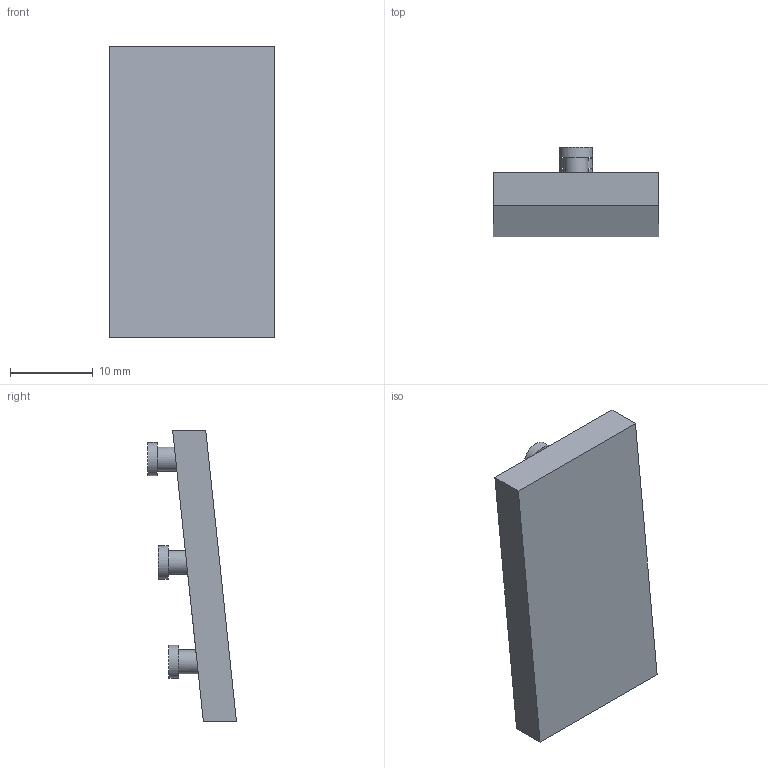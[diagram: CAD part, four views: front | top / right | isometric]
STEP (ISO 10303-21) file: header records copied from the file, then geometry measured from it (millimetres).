
FILE_DESCRIPTION(('Open CASCADE Model'),'2;1');
FILE_NAME('Open CASCADE Shape Model','2026-10-17T22:10:43',('Author'),( 'Open CASCADE'),'Open CASCADE STEP processor 7.9','Open CASCADE 7.9' ,'Unknown');
FILE_SCHEMA(('AUTOMOTIVE_DESIGN { 1 0 10303 214 1 1 1 1 }'));
Length unit declared in the file: millimetre
Products named in the file (1): Open CASCADE STEP translator 7.9 39
Bounding box: 20 x 10.74 x 35.25 mm (x, y, z)
Volume: 2908.5 mm3; surface area: 2000.6 mm2
Topology: 1 solids, 1 shells, 18 faces, 30 edges, 20 vertices
Faces by surface type: plane 12, cylinder 6
Full cylindrical faces by diameter (mm): 2.9 x3, 4 x3
Entity records: 892 total; most frequent: CARTESIAN_POINT 228, DIRECTION 128, LINE 63, VECTOR 63, ORIENTED_EDGE 60, PCURVE 60, DEFINITIONAL_REPRESENTATION 60, AXIS2_PLACEMENT_3D 31
